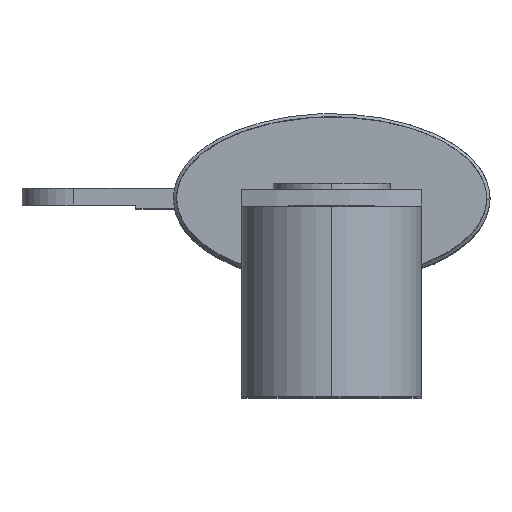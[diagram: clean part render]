
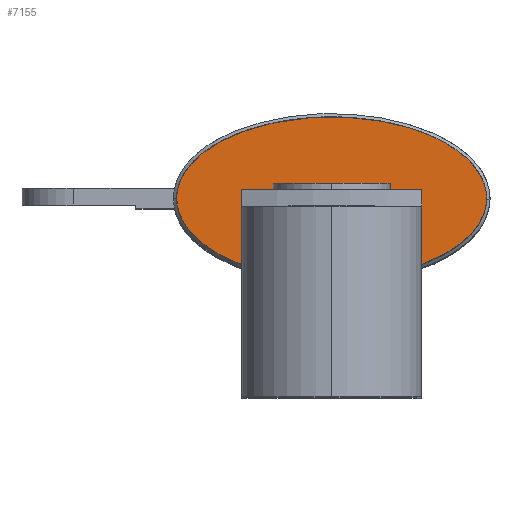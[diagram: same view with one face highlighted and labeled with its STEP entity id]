
A CAD part, top view. The second image highlights one B-rep face of the part: STEP entity #7155.
In plain terms, the highlighted planar face has unit normal (0, 0, 1).
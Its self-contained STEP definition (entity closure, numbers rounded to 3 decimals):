
#1011 = VERTEX_POINT ( 'NONE', #2652 ) ;
#1079 = VERTEX_POINT ( 'NONE', #2685 ) ;
#1094 = VERTEX_POINT ( 'NONE', #2058 ) ;
#1123 = VERTEX_POINT ( 'NONE', #2071 ) ;
#1369 = CARTESIAN_POINT ( 'NONE',  ( -2.77, 0.25, 9.525 ) ) ;
#1370 = DIRECTION ( 'NONE',  ( -1., 0., 0. ) ) ;
#1405 = EDGE_CURVE ( 'NONE', #3015, #1123, #6767, .T. ) ;
#1424 = EDGE_CURVE ( 'NONE', #1011, #3017, #6798, .T. ) ;
#2058 = CARTESIAN_POINT ( 'NONE',  ( -4.76, 0., 9.525 ) ) ;
#2071 = CARTESIAN_POINT ( 'NONE',  ( -2.77, 0.25, 9.525 ) ) ;
#2206 = CARTESIAN_POINT ( 'NONE',  ( 2.77, 0.25, 9.525 ) ) ;
#2208 = CARTESIAN_POINT ( 'NONE',  ( -2.77, -0.25, 9.525 ) ) ;
#2435 = CARTESIAN_POINT ( 'NONE',  ( -2.77, -0.25, 9.525 ) ) ;
#2652 = CARTESIAN_POINT ( 'NONE',  ( 2.77, -0.25, 9.525 ) ) ;
#2685 = CARTESIAN_POINT ( 'NONE',  ( 4.76, 0., 9.525 ) ) ;
#2767 = FACE_OUTER_BOUND ( 'NONE', #4870, .T. ) ;
#2768 = FACE_BOUND ( 'NONE', #4866, .T. ) ;
#2796 =( BOUNDED_CURVE ( )  B_SPLINE_CURVE ( 3, ( #6044, #6045, #6061, #6062 ),
 .UNSPECIFIED., .F., .T. ) 
 B_SPLINE_CURVE_WITH_KNOTS ( ( 4, 4 ),
 ( 0., 3.142 ),
 .UNSPECIFIED. ) 
 CURVE ( )  GEOMETRIC_REPRESENTATION_ITEM ( )  RATIONAL_B_SPLINE_CURVE ( ( 1., 0.333, 0.333, 1. ) ) 
 REPRESENTATION_ITEM ( '' )  );
#2797 =( BOUNDED_CURVE ( )  B_SPLINE_CURVE ( 3, ( #6115, #6114, #6125, #6126 ),
 .UNSPECIFIED., .F., .T. ) 
 B_SPLINE_CURVE_WITH_KNOTS ( ( 4, 4 ),
 ( 3.142, 6.283 ),
 .UNSPECIFIED. ) 
 CURVE ( )  GEOMETRIC_REPRESENTATION_ITEM ( )  RATIONAL_B_SPLINE_CURVE ( ( 1., 0.333, 0.333, 1. ) ) 
 REPRESENTATION_ITEM ( '' )  );
#2964 = ORIENTED_EDGE ( 'NONE', *, *, #7194, .T. ) ;
#2965 = ORIENTED_EDGE ( 'NONE', *, *, #7740, .T. ) ;
#2966 = ORIENTED_EDGE ( 'NONE', *, *, #1424, .T. ) ;
#2967 = ORIENTED_EDGE ( 'NONE', *, *, #7195, .F. ) ;
#2968 = ORIENTED_EDGE ( 'NONE', *, *, #1405, .F. ) ;
#2969 = ORIENTED_EDGE ( 'NONE', *, *, #7196, .T. ) ;
#3015 = VERTEX_POINT ( 'NONE', #2206 ) ;
#3017 = VERTEX_POINT ( 'NONE', #2208 ) ;
#3623 = AXIS2_PLACEMENT_3D ( 'NONE', #5660, #5661, #5662 ) ;
#4416 = DIRECTION ( 'NONE',  ( -1., 0., 0. ) ) ;
#4866 = EDGE_LOOP ( 'NONE', ( #2966, #2967, #2968, #2969 ) ) ;
#4870 = EDGE_LOOP ( 'NONE', ( #2964, #2965 ) ) ;
#5653 = PLANE ( 'NONE',  #3623 ) ;
#5660 = CARTESIAN_POINT ( 'NONE',  ( 0., 0., 9.525 ) ) ;
#5661 = DIRECTION ( 'NONE',  ( 0., 0., 1. ) ) ;
#5662 = DIRECTION ( 'NONE',  ( 1., 0., 0. ) ) ;
#6044 = CARTESIAN_POINT ( 'NONE',  ( -4.76, 0., 9.525 ) ) ;
#6045 = CARTESIAN_POINT ( 'NONE',  ( -4.76, -5., 9.525 ) ) ;
#6060 = CARTESIAN_POINT ( 'NONE',  ( -2.77, 0.25, 9.525 ) ) ;
#6061 = CARTESIAN_POINT ( 'NONE',  ( 4.76, -5., 9.525 ) ) ;
#6062 = CARTESIAN_POINT ( 'NONE',  ( 4.76, 0., 9.525 ) ) ;
#6063 = DIRECTION ( 'NONE',  ( 0., -1., 0. ) ) ;
#6064 = CARTESIAN_POINT ( 'NONE',  ( 2.77, 0.25, 9.525 ) ) ;
#6066 = DIRECTION ( 'NONE',  ( 0., -1., 0. ) ) ;
#6114 = CARTESIAN_POINT ( 'NONE',  ( 4.76, 5., 9.525 ) ) ;
#6115 = CARTESIAN_POINT ( 'NONE',  ( 4.76, 0., 9.525 ) ) ;
#6125 = CARTESIAN_POINT ( 'NONE',  ( -4.76, 5., 9.525 ) ) ;
#6126 = CARTESIAN_POINT ( 'NONE',  ( -4.76, 0., 9.525 ) ) ;
#6198 = LINE ( 'NONE', #6060, #6204 ) ;
#6203 = LINE ( 'NONE', #6064, #6206 ) ;
#6204 = VECTOR ( 'NONE', #6063, 1000. ) ;
#6206 = VECTOR ( 'NONE', #6066, 1000. ) ;
#6767 = LINE ( 'NONE', #1369, #6774 ) ;
#6774 = VECTOR ( 'NONE', #1370, 1000. ) ;
#6798 = LINE ( 'NONE', #2435, #6801 ) ;
#6801 = VECTOR ( 'NONE', #4416, 1000. ) ;
#7155 = ADVANCED_FACE ( 'NONE', ( #2767, #2768 ), #5653, .T. ) ;
#7194 = EDGE_CURVE ( 'NONE', #1094, #1079, #2796, .T. ) ;
#7195 = EDGE_CURVE ( 'NONE', #1123, #3017, #6198, .T. ) ;
#7196 = EDGE_CURVE ( 'NONE', #3015, #1011, #6203, .T. ) ;
#7740 = EDGE_CURVE ( 'NONE', #1079, #1094, #2797, .T. ) ;
